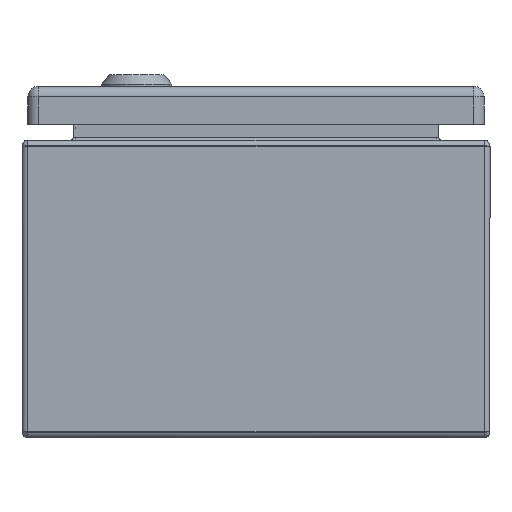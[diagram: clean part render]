
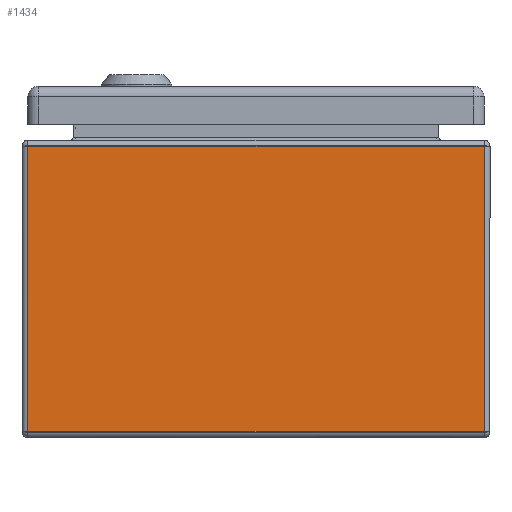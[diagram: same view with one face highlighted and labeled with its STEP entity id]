
A CAD part, front view. The second image highlights one B-rep face of the part: STEP entity #1434.
In plain terms, the highlighted planar face has unit normal (0, -1, 0).
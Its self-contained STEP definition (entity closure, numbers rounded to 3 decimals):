
#247 = ORIENTED_EDGE ( 'NONE', *, *, #1773, .T. ) ;
#419 = LINE ( 'NONE', #4037, #2673 ) ;
#535 = PLANE ( 'NONE',  #4058 ) ;
#954 = EDGE_CURVE ( 'NONE', #1780, #3249, #6305, .T. ) ;
#1013 = VECTOR ( 'NONE', #5900, 1000. ) ;
#1129 = DIRECTION ( 'NONE',  ( 0., 1., 0. ) ) ;
#1434 = ADVANCED_FACE ( 'NONE', ( #4199 ), #535, .F. ) ;
#1596 = VERTEX_POINT ( 'NONE', #5748 ) ;
#1653 = CARTESIAN_POINT ( 'NONE',  ( -97.5, -150., 124.5 ) ) ;
#1681 = VECTOR ( 'NONE', #2250, 1000. ) ;
#1773 = EDGE_CURVE ( 'NONE', #1596, #3218, #7622, .T. ) ;
#1774 = EDGE_CURVE ( 'NONE', #1780, #1596, #419, .T. ) ;
#1780 = VERTEX_POINT ( 'NONE', #1653 ) ;
#2250 = DIRECTION ( 'NONE',  ( 0., 0., 1. ) ) ;
#2526 = ORIENTED_EDGE ( 'NONE', *, *, #3352, .T. ) ;
#2673 = VECTOR ( 'NONE', #3495, 1000. ) ;
#2770 = CARTESIAN_POINT ( 'NONE',  ( 100., -150., 2.5 ) ) ;
#2850 = LINE ( 'NONE', #5283, #1681 ) ;
#3048 = CARTESIAN_POINT ( 'NONE',  ( 100., -150., 1.2 ) ) ;
#3218 = VERTEX_POINT ( 'NONE', #4634 ) ;
#3249 = VERTEX_POINT ( 'NONE', #6483 ) ;
#3352 = EDGE_CURVE ( 'NONE', #3218, #3249, #2850, .T. ) ;
#3495 = DIRECTION ( 'NONE',  ( 0., 0., -1. ) ) ;
#4036 = ORIENTED_EDGE ( 'NONE', *, *, #1774, .T. ) ;
#4037 = CARTESIAN_POINT ( 'NONE',  ( -97.5, -150., 1.2 ) ) ;
#4050 = VECTOR ( 'NONE', #6267, 1000. ) ;
#4058 = AXIS2_PLACEMENT_3D ( 'NONE', #3048, #1129, #7157 ) ;
#4199 = FACE_OUTER_BOUND ( 'NONE', #7423, .T. ) ;
#4634 = CARTESIAN_POINT ( 'NONE',  ( 97.5, -150., 2.5 ) ) ;
#5283 = CARTESIAN_POINT ( 'NONE',  ( 97.5, -150., 1.2 ) ) ;
#5463 = ORIENTED_EDGE ( 'NONE', *, *, #954, .F. ) ;
#5748 = CARTESIAN_POINT ( 'NONE',  ( -97.5, -150., 2.5 ) ) ;
#5900 = DIRECTION ( 'NONE',  ( 1., 0., 0. ) ) ;
#6267 = DIRECTION ( 'NONE',  ( 1., 0., 0. ) ) ;
#6305 = LINE ( 'NONE', #7445, #4050 ) ;
#6483 = CARTESIAN_POINT ( 'NONE',  ( 97.5, -150., 124.5 ) ) ;
#7157 = DIRECTION ( 'NONE',  ( -1., 0., 0. ) ) ;
#7423 = EDGE_LOOP ( 'NONE', ( #5463, #4036, #247, #2526 ) ) ;
#7445 = CARTESIAN_POINT ( 'NONE',  ( -100., -150., 124.5 ) ) ;
#7622 = LINE ( 'NONE', #2770, #1013 ) ;
